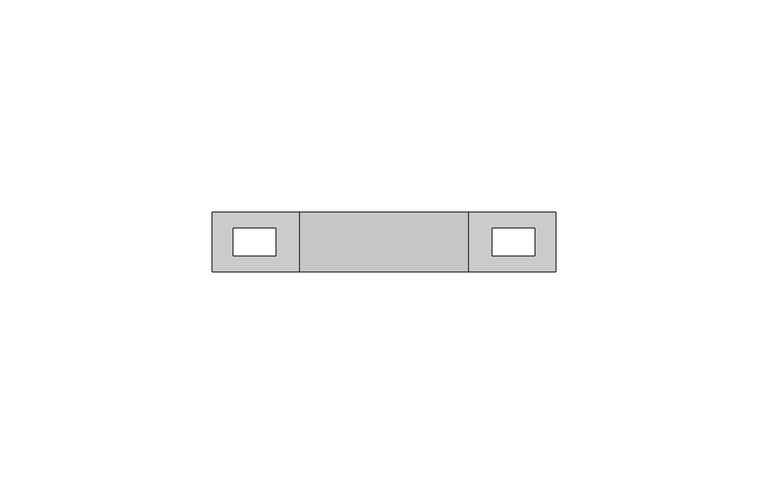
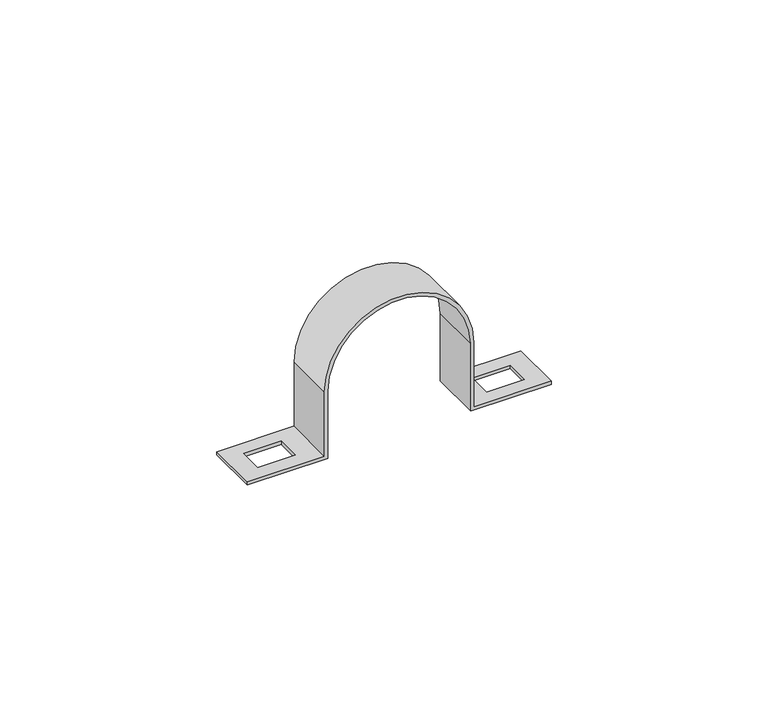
"""IFC4 building model written with IfcOpenShell, lengths in millimetres: cable carrier fitting geometry, КНС_ДержательОцинкованныйДвусторонний_DKC : д.38 - 40мм."""

from ifc_helpers import new_model, si_unit, frame, origin, place, context, project, spatial, polyline, circle_curve, source, transform, mapped, element, save
from ifc_brep_helpers import plane_surface, cylinder_surface, revolved_surface, advanced_brep


def cable_carrier_fitting_2cc71f8e(model_context):
    return source(origin(), model_context, "Body", "AdvancedBrep", [
        advanced_brep(
        [(40.5, -7.0, 0.0), (40.5, -7.0, 0.9), (19.9, -7.0, 0.9), (19.9, -7.0, 19.0), (-19.9, -7.0, 19.0), (-19.9, -7.0, 0.9), (-40.5, -7.0, 0.9), (-40.5, -7.0, 0.0), (-19.0, -7.0, 0.0), (-19.0, -7.0, 19.0), (19.0, -7.0, 19.0), (19.0, -7.0, 0.0), (40.5, 7.0, 0.0), (19.0, 7.0, 0.0), (19.0, 7.0, 19.0), (-19.0, 7.0, 19.0), (-19.0, 7.0, 0.0), (-40.5, 7.0, 0.0), (-40.5, 7.0, 0.9), (-19.9, 7.0, 0.9), (-19.9, 7.0, 19.0), (19.9, 7.0, 19.0), (19.9, 7.0, 0.9), (40.5, 7.0, 0.9), (35.5, -3.25, 0.9), (25.5, -3.25, 0.9), (25.5, 3.25, 0.9), (35.5, 3.25, 0.9), (-35.5, 3.25, 0.9), (-25.5, 3.25, 0.9), (-25.5, -3.25, 0.9), (-35.5, -3.25, 0.9), (-25.5, 3.25, 0.0), (-35.5, 3.25, 0.0), (-35.5, -3.25, 0.0), (-25.5, -3.25, 0.0), (25.5, -3.25, 0.0), (35.5, -3.25, 0.0), (35.5, 3.25, 0.0), (25.5, 3.25, 0.0)],
        [
            (0, 1),
            (1, 2),
            (2, 3),
            (3, 4, circle_curve(frame((0.0, -7.0, 19.0), z_axis=(0.0, -1.0, 0.0), x_axis=(1.0, 0.0, 0.0)), 19.9)),
            (4, 5),
            (5, 6),
            (6, 7),
            (7, 8),
            (8, 9),
            (9, 10, circle_curve(frame((0.0, -7.0, 19.0), z_axis=(0.0, 1.0, 0.0), x_axis=(1.0, 0.0, 0.0)), 19.0)),
            (10, 11),
            (11, 0),
            (12, 13),
            (13, 14),
            (14, 15, circle_curve(frame((0.0, 7.0, 19.0), z_axis=(0.0, -1.0, 0.0), x_axis=(1.0, 0.0, 0.0)), 19.0)),
            (15, 16),
            (16, 17),
            (17, 18),
            (18, 19),
            (19, 20),
            (20, 21, circle_curve(frame((0.0, 7.0, 19.0), z_axis=(0.0, 1.0, 0.0), x_axis=(1.0, 0.0, 0.0)), 19.9)),
            (21, 22),
            (22, 23),
            (23, 12),
            (0, 12),
            (23, 1),
            (22, 2),
            (24, 25),
            (25, 26),
            (26, 27),
            (27, 24),
            (21, 3),
            (20, 4),
            (19, 5),
            (18, 6),
            (28, 29),
            (29, 30),
            (30, 31),
            (31, 28),
            (17, 7),
            (16, 8),
            (32, 33),
            (33, 34),
            (34, 35),
            (35, 32),
            (15, 9),
            (14, 10),
            (13, 11),
            (36, 37),
            (37, 38),
            (38, 39),
            (39, 36),
            (32, 29),
            (28, 33),
            (31, 34),
            (30, 35),
            (36, 25),
            (24, 37),
            (27, 38),
            (26, 39),
        ],
        [
            plane_surface(frame((40.5, -7.0, 0.9), z_axis=(0.0, -1.0, 0.0), x_axis=(0.0, 0.0, 1.0))),
            plane_surface(frame((40.5, 7.0, 0.9), z_axis=(0.0, 1.0, 0.0), x_axis=(0.0, 0.0, -1.0))),
            plane_surface(frame((40.5, -7.0, 0.0), z_axis=(1.0, 0.0, 0.0), x_axis=(0.0, 1.0, 0.0))),
            plane_surface(frame((40.5, -7.0, 0.9), z_axis=(0.0, 0.0, 1.0), x_axis=(0.0, 1.0, 0.0))),
            plane_surface(frame((19.9, -7.0, 0.9), z_axis=(1.0, 0.0, 0.0), x_axis=(0.0, 1.0, 0.0))),
            cylinder_surface(frame((0.0, 7.0, 19.0), z_axis=(0.0, -1.0, 0.0), x_axis=(1.0, 0.0, 0.0)), 19.9),
            plane_surface(frame((-19.9, -7.0, 19.0), z_axis=(-1.0, 0.0, 0.0), x_axis=(0.0, 1.0, 0.0))),
            plane_surface(frame((-19.9, -7.0, 0.9), z_axis=(0.0, 0.0, 1.0), x_axis=(0.0, 1.0, 0.0))),
            plane_surface(frame((-40.5, -7.0, 0.9), z_axis=(-1.0, 0.0, 0.0), x_axis=(0.0, 1.0, 0.0))),
            plane_surface(frame((-40.5, -7.0, 0.0), z_axis=(0.0, 0.0, -1.0), x_axis=(0.0, 1.0, 0.0))),
            plane_surface(frame((-19.0, -7.0, 0.0), z_axis=(1.0, 0.0, 0.0), x_axis=(0.0, 1.0, 0.0))),
            revolved_surface(polyline([(19.0, 7.0, 19.0), (19.0, -7.0, 19.0)]), (0.0, 7.0, 19.0), (0.0, 1.0, 0.0)),
            plane_surface(frame((19.0, -7.0, 19.0), z_axis=(-1.0, 0.0, 0.0), x_axis=(0.0, 1.0, 0.0))),
            plane_surface(frame((19.0, -7.0, 0.0), z_axis=(0.0, 0.0, -1.0), x_axis=(0.0, 1.0, 0.0))),
            plane_surface(frame((-25.5, 3.25, 21.959409), z_axis=(0.0, -1.0, 0.0), x_axis=(0.0, 0.0, -1.0))),
            plane_surface(frame((-35.5, 3.25, 21.959409), z_axis=(1.0, 0.0, 0.0), x_axis=(0.0, 0.0, -1.0))),
            plane_surface(frame((-35.5, -3.25, 21.959409), z_axis=(0.0, 1.0, 0.0), x_axis=(0.0, 0.0, -1.0))),
            plane_surface(frame((-25.5, -3.25, 21.959409), z_axis=(-1.0, 0.0, 0.0), x_axis=(0.0, 0.0, -1.0))),
            plane_surface(frame((25.5, -3.25, 21.959409), z_axis=(0.0, 1.0, 0.0), x_axis=(0.0, 0.0, -1.0))),
            plane_surface(frame((35.5, -3.25, 21.959409), z_axis=(-1.0, 0.0, 0.0), x_axis=(0.0, 0.0, -1.0))),
            plane_surface(frame((35.5, 3.25, 21.959409), z_axis=(0.0, -1.0, 0.0), x_axis=(0.0, 0.0, -1.0))),
            plane_surface(frame((25.5, 3.25, 21.959409), z_axis=(1.0, 0.0, 0.0), x_axis=(0.0, 0.0, -1.0))),
        ],
        [
            (0, [[1, 2, 3, 4, 5, 6, 7, 8, 9, 10, 11, 12]]),
            (1, [[13, 14, 15, 16, 17, 18, 19, 20, 21, 22, 23, 24]]),
            (2, [[-1, 25, -24, 26]]),
            (3, [[-2, -26, -23, 27], [28, 29, 30, 31]]),
            (4, [[-3, -27, -22, 32]]),
            (5, [[-4, -32, -21, 33]]),
            (6, [[-5, -33, -20, 34]]),
            (7, [[-6, -34, -19, 35], [36, 37, 38, 39]]),
            (8, [[-7, -35, -18, 40]]),
            (9, [[-8, -40, -17, 41], [42, 43, 44, 45]]),
            (10, [[-9, -41, -16, 46]]),
            (11, [[-10, -46, -15, 47]]),
            (12, [[-11, -47, -14, 48]]),
            (13, [[-12, -48, -13, -25], [49, 50, 51, 52]]),
            (14, [[53, -36, 54, -42]]),
            (15, [[-54, -39, 55, -43]]),
            (16, [[-55, -38, 56, -44]]),
            (17, [[-53, -45, -56, -37]]),
            (18, [[57, -28, 58, -49]]),
            (19, [[-58, -31, 59, -50]]),
            (20, [[-59, -30, 60, -51]]),
            (21, [[-57, -52, -60, -29]]),
        ],
    ),
    ])


if __name__ == "__main__":
    model = new_model("IFC4")
    model_context = context("Model", 3, world=origin())
    ifc_project = project(units=[si_unit("LENGTHUNIT", "METRE", prefix="MILLI")], contexts=[model_context])
    site = spatial("IfcSite", under=ifc_project)
    building = spatial("IfcBuilding", under=site)
    placement = place(None, origin())
    cable_carrier_fitting_shape = cable_carrier_fitting_2cc71f8e(model_context)
    element("IfcCableCarrierFitting", 1, ObjectType="КНС_ДержательОцинкованныйДвусторонний_DKC : д.38 - 40мм", at=placement, inside=building, context=model_context, shape_type="MappedRepresentation", body=[
        mapped(cable_carrier_fitting_shape, transform((0.0, 0.0, 0.0), x_axis=(1.0, 0.0, 0.0), y_axis=(0.0, 1.0, 0.0), z_axis=(0.0, 0.0, 1.0))),
    ])
    save(model, "model.ifc")
